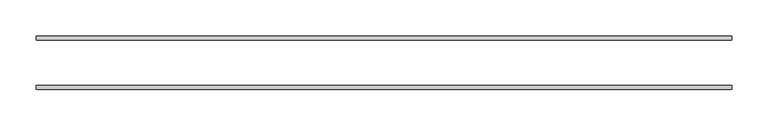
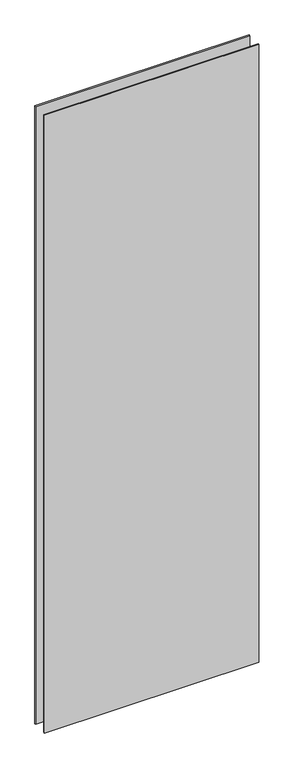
"""IFC4 building model written with IfcOpenShell, lengths in millimetres: plate geometry, VERTI ELEMENT - prosklená výplň : Prosklená výplň."""

from ifc_helpers import new_model, si_unit, origin, origin_with_axes, place, context, project, spatial, polyline, outline, extrude, source, transform, mapped, element, save


def plate_595f0704(model_context):
    return source(origin(), model_context, "Body", "SweptSolid", [
        extrude(outline(polyline([(-477.5, -36.5), (-477.5, -31.5), (477.5, -31.5), (477.5, -36.5), (-477.5, -36.5)])), origin_with_axes(), (0.0, 0.0, 1.0), 2910.0),
        extrude(outline(polyline([(477.5, 36.5), (477.5, 31.5), (-477.5, 31.5), (-477.5, 36.5), (477.5, 36.5)])), origin_with_axes(), (0.0, 0.0, 1.0), 2910.0),
    ])


if __name__ == "__main__":
    model = new_model("IFC4")
    model_context = context("Model", 3, world=origin())
    ifc_project = project(units=[si_unit("LENGTHUNIT", "METRE", prefix="MILLI")], contexts=[model_context])
    site = spatial("IfcSite", under=ifc_project)
    building = spatial("IfcBuilding", under=site)
    placement = place(None, origin())
    plate_shape = plate_595f0704(model_context)
    element("IfcPlate", 1, ObjectType="VERTI ELEMENT - prosklená výplň : Prosklená výplň", at=placement, inside=building, context=model_context, shape_type="MappedRepresentation", body=[
        mapped(plate_shape, transform((0.0, 0.0, 0.0), x_axis=(1.0, 0.0, 0.0), y_axis=(0.0, 1.0, 0.0), z_axis=(0.0, 0.0, 1.0))),
    ])
    save(model, "model.ifc")
